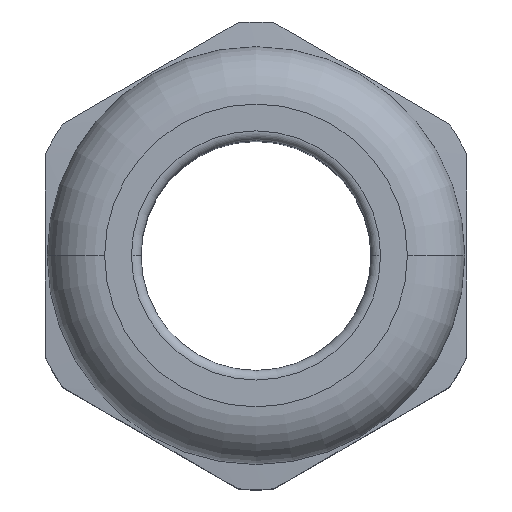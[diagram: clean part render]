
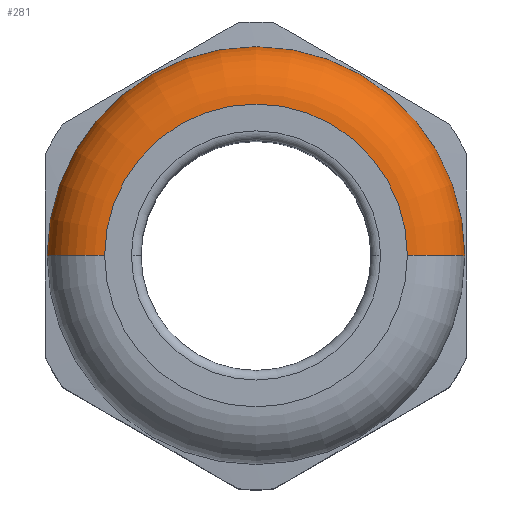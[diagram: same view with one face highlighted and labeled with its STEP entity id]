
A CAD part, top view. The second image highlights one B-rep face of the part: STEP entity #281.
In plain terms, the highlighted toroidal (fillet/blend) face has major radius 7.9 mm and minor radius 3 mm.
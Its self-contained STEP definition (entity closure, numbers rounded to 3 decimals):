
#13 = EDGE_CURVE ( 'NONE', #32, #279, #2488, .T. ) ;
#23 = EDGE_CURVE ( 'NONE', #25, #270, #2466, .T. ) ;
#25 = VERTEX_POINT ( 'NONE', #2461 ) ;
#26 = ORIENTED_EDGE ( 'NONE', *, *, #23, .T. ) ;
#32 = VERTEX_POINT ( 'NONE', #2512 ) ;
#33 = EDGE_LOOP ( 'NONE', ( #254, #26, #271, #276 ) ) ;
#34 = EDGE_CURVE ( 'NONE', #32, #25, #2509, .T. ) ;
#254 = ORIENTED_EDGE ( 'NONE', *, *, #34, .T. ) ;
#270 = VERTEX_POINT ( 'NONE', #1349 ) ;
#271 = ORIENTED_EDGE ( 'NONE', *, *, #280, .F. ) ;
#276 = ORIENTED_EDGE ( 'NONE', *, *, #13, .F. ) ;
#279 = VERTEX_POINT ( 'NONE', #1437 ) ;
#280 = EDGE_CURVE ( 'NONE', #279, #270, #1363, .T. ) ;
#281 = ADVANCED_FACE ( 'NONE', ( #1436 ), #1419, .T. ) ;
#1349 = CARTESIAN_POINT ( 'NONE',  ( 10.9, 0., 28.5 ) ) ;
#1358 = CARTESIAN_POINT ( 'NONE',  ( 0., 0., 28.5 ) ) ;
#1359 = DIRECTION ( 'NONE',  ( -1., 0., 0. ) ) ;
#1360 = DIRECTION ( 'NONE',  ( 0., 0., -1. ) ) ;
#1361 = CARTESIAN_POINT ( 'NONE',  ( 0., 0., 28.5 ) ) ;
#1362 = AXIS2_PLACEMENT_3D ( 'NONE', #1361, #1360, #1359 ) ;
#1363 = CIRCLE ( 'NONE', #1362, 10.9 ) ;
#1416 = DIRECTION ( 'NONE',  ( -1., 0., 0. ) ) ;
#1417 = DIRECTION ( 'NONE',  ( 0., 0., -1. ) ) ;
#1418 = AXIS2_PLACEMENT_3D ( 'NONE', #1358, #1417, #1416 ) ;
#1419 = TOROIDAL_SURFACE ( 'NONE', #1418, 7.9, 3. ) ;
#1436 = FACE_OUTER_BOUND ( 'NONE', #33, .T. ) ;
#1437 = CARTESIAN_POINT ( 'NONE',  ( -10.9, 0., 28.5 ) ) ;
#2461 = CARTESIAN_POINT ( 'NONE',  ( 7.9, 0., 31.5 ) ) ;
#2462 = DIRECTION ( 'NONE',  ( -1., 0., 0. ) ) ;
#2463 = DIRECTION ( 'NONE',  ( 0., 1., 0. ) ) ;
#2464 = CARTESIAN_POINT ( 'NONE',  ( 7.9, 0., 28.5 ) ) ;
#2465 = AXIS2_PLACEMENT_3D ( 'NONE', #2464, #2463, #2462 ) ;
#2466 = CIRCLE ( 'NONE', #2465, 3. ) ;
#2484 = DIRECTION ( 'NONE',  ( 0., 0., -1. ) ) ;
#2485 = DIRECTION ( 'NONE',  ( 0., -1., 0. ) ) ;
#2486 = CARTESIAN_POINT ( 'NONE',  ( -7.9, 0., 28.5 ) ) ;
#2487 = AXIS2_PLACEMENT_3D ( 'NONE', #2486, #2485, #2484 ) ;
#2488 = CIRCLE ( 'NONE', #2487, 3. ) ;
#2501 = DIRECTION ( 'NONE',  ( -1., 0., 0. ) ) ;
#2502 = DIRECTION ( 'NONE',  ( 0., 0., -1. ) ) ;
#2503 = AXIS2_PLACEMENT_3D ( 'NONE', #2511, #2502, #2501 ) ;
#2509 = CIRCLE ( 'NONE', #2503, 7.9 ) ;
#2511 = CARTESIAN_POINT ( 'NONE',  ( 0., 0., 31.5 ) ) ;
#2512 = CARTESIAN_POINT ( 'NONE',  ( -7.9, 0., 31.5 ) ) ;
